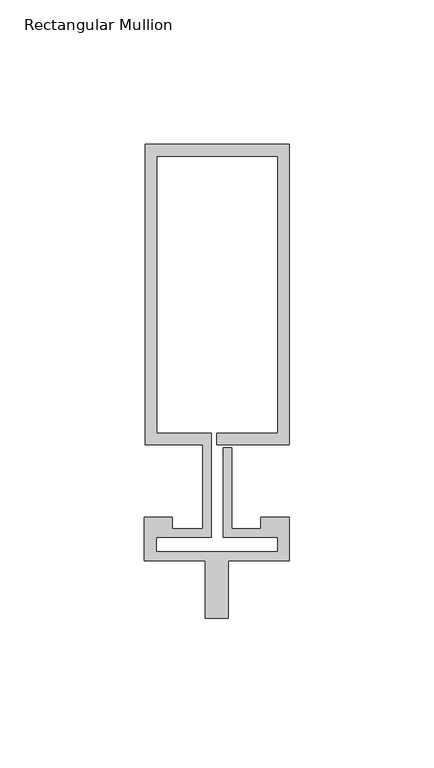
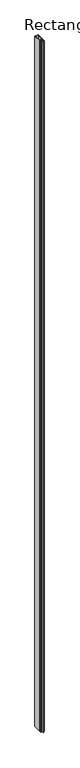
"""IFC4 building model written with IfcOpenShell, lengths in millimetres: member geometry, Rectangular Mullion : Reynaers_CW-50_Mullion-Transom_Vertical_104.5mm_Facecap-06A."""

import ifcopenshell
import ifcopenshell.guid

model = None  # the IFC model being written
_history = None  # IfcOwnerHistory: only IFC2X3 demands one
_inside = {}  # id of a spatial element -> (the spatial element, [elements in it])
_under = {}  # id of a project, library or spatial element -> (it, [spatial elements below it])
_declared = {}  # id of a project -> (the project, [libraries it declares])
_typed = {}  # id of a type object -> (the type object, [elements of that type])
_made_of = {}  # id of a material, layer set ... -> (it, [elements and type objects made of it])


def new_model(schema):
    """Start an empty IFC model of exactly this schema.

    Asked for "IFC4X3", IfcOpenShell would pick the latest addendum, in which some entities
    have other attributes; the version numbers below select the first issue.
    IFC2X3 requires an IfcOwnerHistory on every rooted entity: one is made here for all.
    """
    global model, _history
    if schema == "IFC4X3":
        model = ifcopenshell.file(schema_version=(4, 3, 0, 0))
    else:
        model = ifcopenshell.file(schema=schema)
    _inside.clear()
    _under.clear()
    _declared.clear()
    _typed.clear()
    _made_of.clear()
    _history = None
    if model.schema == "IFC2X3":
        org = make("IfcOrganization", Name="unknown")
        user = make(
            "IfcPersonAndOrganization",
            ThePerson=make("IfcPerson", FamilyName="unknown"),
            TheOrganization=org,
        )
        app = make(
            "IfcApplication",
            ApplicationDeveloper=org,
            Version="unknown",
            ApplicationFullName="unknown",
            ApplicationIdentifier="unknown",
        )
        _history = make(
            "IfcOwnerHistory",
            OwningUser=user,
            OwningApplication=app,
            ChangeAction="ADDED",
            CreationDate=0,
        )
    return model


def make(cls, **values):
    """One entity of the class cls with the attributes given. An attribute that is None is left unset."""
    return model.create_entity(
        cls, **{name: value for name, value in values.items() if value is not None}
    )


def rooted(cls, **values):
    """An entity with a GlobalId (a new one), such as an element, a storey or a relation."""
    return make(cls, GlobalId=ifcopenshell.guid.new(), OwnerHistory=_history, **values)


def si_unit(unit_type, name, prefix=None):
    """IfcSIUnit, for example si_unit("LENGTHUNIT", "METRE", prefix="MILLI")."""
    return make("IfcSIUnit", UnitType=unit_type, Prefix=prefix, Name=name)


def assignment(units):
    """IfcUnitAssignment: the units of a project."""
    return None if units is None else make("IfcUnitAssignment", Units=units)


def point(xyz):
    """IfcCartesianPoint."""
    return None if xyz is None else make("IfcCartesianPoint", Coordinates=xyz)


def direction(xyz):
    """IfcDirection."""
    return None if xyz is None else make("IfcDirection", DirectionRatios=xyz)


def frame(location, z_axis=None, x_axis=None):
    """IfcAxis2Placement3D, a coordinate frame: its origin and axes. An axis left out is left unset."""
    return make(
        "IfcAxis2Placement3D",
        Location=point(location),
        Axis=direction(z_axis),
        RefDirection=direction(x_axis),
    )


def origin():
    """The frame at (0, 0, 0) with its axes left unset."""
    return frame((0.0, 0.0, 0.0))


def place(relative_to, where):
    """IfcLocalPlacement: puts the frame where relative to a parent placement (None: the world)."""
    return make(
        "IfcLocalPlacement", PlacementRelTo=relative_to, RelativePlacement=where
    )


def context(
    kind, dimensions, precision=None, world=None, true_north=None, identifier=None
):
    """IfcGeometricRepresentationContext, for example the 3D "Model" context."""
    return make(
        "IfcGeometricRepresentationContext",
        ContextIdentifier=identifier,
        ContextType=kind,
        CoordinateSpaceDimension=dimensions,
        Precision=precision,
        WorldCoordinateSystem=world,
        TrueNorth=true_north,
    )


def project(units=None, contexts=None):
    """IfcProject with its units and contexts."""
    return rooted(
        "IfcProject",
        Name="project",
        RepresentationContexts=contexts,
        UnitsInContext=assignment(units),
    )


def spatial(cls, under=None, at=None, **own):
    """A site, building, storey or space (cls), placed at a placement, below another one or the project."""
    s = rooted(cls, ObjectPlacement=at, **own)
    if under is not None:
        _under.setdefault(under.id(), (under, []))[1].append(s)
    return s


def polyline(points):
    """IfcPolyline through the points."""
    return make("IfcPolyline", Points=[point(p) for p in points])


def outline(outer, holes=None, kind="AREA"):
    """IfcArbitraryClosedProfileDef: a profile drawn as a closed curve; with holes, ...WithVoids."""
    if holes is None:
        return make("IfcArbitraryClosedProfileDef", ProfileType=kind, OuterCurve=outer)
    return make(
        "IfcArbitraryProfileDefWithVoids",
        ProfileType=kind,
        OuterCurve=outer,
        InnerCurves=holes,
    )


def extrude(swept, where, along, depth):
    """IfcExtrudedAreaSolid: the profile swept, set in the frame where, extruded along a direction by depth."""
    return make(
        "IfcExtrudedAreaSolid",
        SweptArea=swept,
        Position=where,
        ExtrudedDirection=direction(along),
        Depth=depth,
    )


def shape(context_of_items, identifier, shape_type, items):
    """IfcShapeRepresentation: the items that make up one representation, for example the "Body"."""
    return make(
        "IfcShapeRepresentation",
        ContextOfItems=context_of_items,
        RepresentationIdentifier=identifier,
        RepresentationType=shape_type,
        Items=items,
    )


def source(mapping_origin, context_of_items, identifier, shape_type, items):
    """IfcRepresentationMap: a shape defined once, which mapped items show again and again."""
    return make(
        "IfcRepresentationMap",
        MappingOrigin=mapping_origin,
        MappedRepresentation=shape(context_of_items, identifier, shape_type, items),
    )


def transform(
    local_origin,
    x_axis=None,
    y_axis=None,
    z_axis=None,
    scale=None,
    scale2=None,
    scale3=None,
    uniform=True,
):
    """IfcCartesianTransformationOperator3D, or its non-uniform kind. x_axis, y_axis, z_axis: its Axis1, 2, 3."""
    if uniform:
        return make(
            "IfcCartesianTransformationOperator3D",
            Axis1=direction(x_axis),
            Axis2=direction(y_axis),
            LocalOrigin=point(local_origin),
            Scale=scale,
            Axis3=direction(z_axis),
        )
    return make(
        "IfcCartesianTransformationOperator3DnonUniform",
        Axis1=direction(x_axis),
        Axis2=direction(y_axis),
        LocalOrigin=point(local_origin),
        Scale=scale,
        Axis3=direction(z_axis),
        Scale2=scale2,
        Scale3=scale3,
    )


def mapped(mapping_source, mapping_target):
    """IfcMappedItem: shows the shape of a source again, moved by a transform."""
    return make(
        "IfcMappedItem", MappingSource=mapping_source, MappingTarget=mapping_target
    )


def made_of(thing, what):
    """Note that an element or type object is made of a material, layer set ...; save() writes the relation."""
    if what is not None:
        _made_of.setdefault(what.id(), (what, []))[1].append(thing)
    return thing


def element(
    cls,
    number,
    at=None,
    inside=None,
    cuts=None,
    type_object=None,
    material=None,
    context=None,
    identifier="Body",
    shape_type=None,
    held_by="IfcProductDefinitionShape",
    body=None,
    shapes=None,
    **own,
):
    """One element of the class cls, such as IfcWall. Its Tag is "e" and its number.

    at: its placement. inside: the storey or other place that contains it. cuts: it is an
    opening in that element (IfcRelVoidsElement). A single representation is given by context,
    identifier, shape_type and body (its items); several are given by shapes. held_by: the class
    of the entity that holds the representations. save() writes the other relations.
    """
    e = rooted(cls, Tag="e%d" % number, ObjectPlacement=at, **own)
    if body is not None:
        shapes = [shape(context, identifier, shape_type, body)]
    if shapes is not None:
        e.Representation = make(held_by, Representations=shapes)
    if inside is not None:
        _inside.setdefault(inside.id(), (inside, []))[1].append(e)
    if cuts is not None:
        rooted(
            "IfcRelVoidsElement", RelatingBuildingElement=cuts, RelatedOpeningElement=e
        )
    if type_object is not None:
        _typed.setdefault(type_object.id(), (type_object, []))[1].append(e)
    return made_of(e, material)


def aggregate(whole, parts):
    """IfcRelAggregates: a whole, such as a stair, and the parts it consists of."""
    return rooted("IfcRelAggregates", RelatingObject=whole, RelatedObjects=parts)


def save(model, path):
    """Write the relations noted so far, then the file.

    IfcRelAggregates (storeys below a building ...), IfcRelContainedInSpatialStructure (elements
    in a storey), IfcRelDefinesByType, IfcRelAssociatesMaterial and IfcRelDeclares: one each for
    every whole, place, type object, material and project.
    """
    for whole, parts in _under.values():
        aggregate(whole, parts)
    for where, things in _inside.values():
        rooted(
            "IfcRelContainedInSpatialStructure",
            RelatedElements=things,
            RelatingStructure=where,
        )
    for kind, things in _typed.values():
        rooted("IfcRelDefinesByType", RelatedObjects=things, RelatingType=kind)
    for what, things in _made_of.values():
        rooted("IfcRelAssociatesMaterial", RelatedObjects=things, RelatingMaterial=what)
    for by, libraries in _declared.values():
        rooted("IfcRelDeclares", RelatingContext=by, RelatedDefinitions=libraries)
    model.write(path)


def rectangular_mullion_d3724085(model_context):
    return source(origin(), model_context, "Body", "SweptSolid", [
        extrude(outline(polyline([(-24.8004059, 116.5), (25.1995941, 116.5), (25.1995941, 12.5), (0.0, 12.5), (0.0, 16.5), (21.1995941, 16.5), (21.1995941, 112.5), (-20.8004059, 112.5), (-20.8004059, 16.5), (-1.9004059, 16.5), (-1.9004059, -19.5), (-20.994845, -19.5), (-20.994845, -24.4191338), (21.1995941, -24.4191338), (21.1995941, -19.5), (2.2995941, -19.5), (2.2995941, 11.5), (5.2995941, 11.5), (5.2995941, -16.5), (15.2996495, -16.5), (15.2996495, -12.5), (25.1995941, -12.5), (25.1995941, -27.5), (4.004855, -27.5), (4.004855, -47.5), (-3.995145, -47.5), (-3.995145, -27.5), (-24.994845, -27.5), (-24.994845, -12.5), (-15.2996495, -12.5), (-15.2996495, -16.5), (-4.9004059, -16.5), (-4.9004059, 12.5), (-24.8004059, 12.5), (-24.8004059, 116.5)])), frame((0.0, 0.0, -10400.0), z_axis=(0.0, 0.0, 1.0), x_axis=(1.0, 0.0, 0.0)), (0.0, 0.0, 1.0), 10400.0),
    ])


if __name__ == "__main__":
    model = new_model("IFC4")
    model_context = context("Model", 3, world=origin())
    ifc_project = project(units=[si_unit("LENGTHUNIT", "METRE", prefix="MILLI")], contexts=[model_context])
    site = spatial("IfcSite", under=ifc_project)
    building = spatial("IfcBuilding", under=site)
    placement = place(None, origin())
    rectangular_mullion_shape = rectangular_mullion_d3724085(model_context)
    element("IfcMember", 1, ObjectType="Rectangular Mullion : Reynaers_CW-50_Mullion-Transom_Vertical_104.5mm_Facecap-06A", at=placement, inside=building, context=model_context, shape_type="MappedRepresentation", body=[
        mapped(rectangular_mullion_shape, transform((0.0, 0.0, 0.0), x_axis=(1.0, 0.0, 0.0), y_axis=(0.0, 1.0, 0.0), z_axis=(0.0, 0.0, 1.0))),
    ])
    save(model, "model.ifc")
